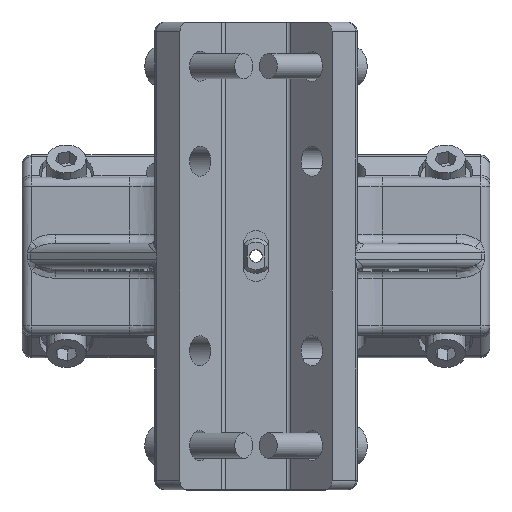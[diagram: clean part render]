
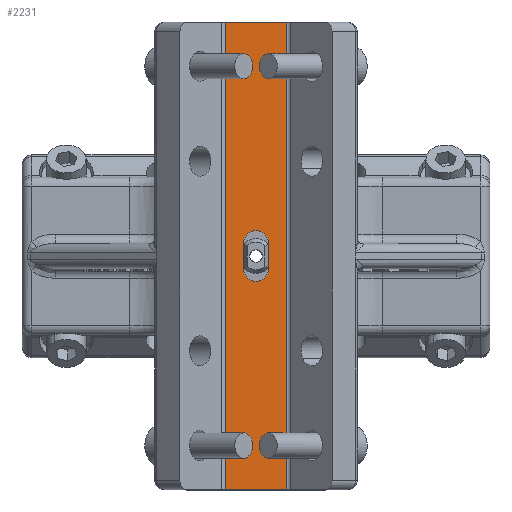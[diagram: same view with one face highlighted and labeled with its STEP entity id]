
A CAD part, top view. The second image highlights one B-rep face of the part: STEP entity #2231.
In plain terms, the highlighted planar face has unit normal (0, 0, 1).
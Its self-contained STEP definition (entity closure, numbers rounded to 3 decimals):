
#618=CARTESIAN_POINT('Vertex',(-9.734,74.,65.)) ;
#621=CARTESIAN_POINT('Line Origine',(0.,74.,65.)) ;
#625=CARTESIAN_POINT('Vertex',(9.734,74.,65.)) ;
#709=CARTESIAN_POINT('Line Origine',(9.734,0.,65.)) ;
#713=CARTESIAN_POINT('Vertex',(9.734,-74.,65.)) ;
#796=CARTESIAN_POINT('Line Origine',(0.,-74.,65.)) ;
#800=CARTESIAN_POINT('Vertex',(-9.734,-74.,65.)) ;
#2174=CARTESIAN_POINT('Line Origine',(-9.734,0.,65.)) ;
#2186=CARTESIAN_POINT('Axis2P3D Location',(9.734,0.,65.)) ;
#2197=CARTESIAN_POINT('Axis2P3D Location',(0.,-4.,65.)) ;
#2201=CARTESIAN_POINT('Vertex',(-4.,-4.,65.)) ;
#2203=CARTESIAN_POINT('Vertex',(4.,-4.,65.)) ;
#2206=CARTESIAN_POINT('Line Origine',(-4.,0.,65.)) ;
#2210=CARTESIAN_POINT('Vertex',(-4.,4.,65.)) ;
#2213=CARTESIAN_POINT('Axis2P3D Location',(0.,4.,65.)) ;
#2217=CARTESIAN_POINT('Vertex',(4.,4.,65.)) ;
#2220=CARTESIAN_POINT('Line Origine',(4.,0.,65.)) ;
#622=DIRECTION('Vector Direction',(-1.,0.,0.)) ;
#710=DIRECTION('Vector Direction',(0.,1.,0.)) ;
#797=DIRECTION('Vector Direction',(-1.,0.,0.)) ;
#2175=DIRECTION('Vector Direction',(0.,1.,0.)) ;
#2187=DIRECTION('Axis2P3D Direction',(0.,0.,-1.)) ;
#2188=DIRECTION('Axis2P3D XDirection',(-1.,0.,0.)) ;
#2198=DIRECTION('Axis2P3D Direction',(0.,0.,-1.)) ;
#2207=DIRECTION('Vector Direction',(0.,1.,0.)) ;
#2214=DIRECTION('Axis2P3D Direction',(0.,0.,-1.)) ;
#2221=DIRECTION('Vector Direction',(0.,-1.,0.)) ;
#2189=AXIS2_PLACEMENT_3D('Plane Axis2P3D',#2186,#2187,#2188) ;
#2199=AXIS2_PLACEMENT_3D('Circle Axis2P3D',#2197,#2198,$) ;
#2215=AXIS2_PLACEMENT_3D('Circle Axis2P3D',#2213,#2214,$) ;
#2192=ORIENTED_EDGE('',*,*,#2178,.F.) ;
#2193=ORIENTED_EDGE('',*,*,#802,.T.) ;
#2194=ORIENTED_EDGE('',*,*,#715,.T.) ;
#2195=ORIENTED_EDGE('',*,*,#627,.F.) ;
#2226=ORIENTED_EDGE('',*,*,#2205,.F.) ;
#2227=ORIENTED_EDGE('',*,*,#2212,.F.) ;
#2228=ORIENTED_EDGE('',*,*,#2219,.F.) ;
#2229=ORIENTED_EDGE('',*,*,#2224,.F.) ;
#2230=FACE_BOUND('',#2225,.T.) ;
#623=VECTOR('Line Direction',#622,1.) ;
#711=VECTOR('Line Direction',#710,1.) ;
#798=VECTOR('Line Direction',#797,1.) ;
#2176=VECTOR('Line Direction',#2175,1.) ;
#2208=VECTOR('Line Direction',#2207,1.) ;
#2222=VECTOR('Line Direction',#2221,1.) ;
#2231=ADVANCED_FACE('Kreuzverbindung SW50 zu SW50',(#2196,#2230),#2190,.F.) ;
#2200=CIRCLE('generated circle',#2199,4.) ;
#2216=CIRCLE('generated circle',#2215,4.) ;
#627=EDGE_CURVE('',#619,#626,#624,.F.) ;
#715=EDGE_CURVE('',#714,#626,#712,.T.) ;
#802=EDGE_CURVE('',#801,#714,#799,.F.) ;
#2178=EDGE_CURVE('',#801,#619,#2177,.T.) ;
#2205=EDGE_CURVE('',#2202,#2204,#2200,.F.) ;
#2212=EDGE_CURVE('',#2211,#2202,#2209,.F.) ;
#2219=EDGE_CURVE('',#2218,#2211,#2216,.F.) ;
#2224=EDGE_CURVE('',#2204,#2218,#2223,.F.) ;
#2191=EDGE_LOOP('',(#2192,#2193,#2194,#2195)) ;
#2225=EDGE_LOOP('',(#2226,#2227,#2228,#2229)) ;
#2196=FACE_OUTER_BOUND('',#2191,.T.) ;
#624=LINE('Line',#621,#623) ;
#712=LINE('Line',#709,#711) ;
#799=LINE('Line',#796,#798) ;
#2177=LINE('Line',#2174,#2176) ;
#2209=LINE('Line',#2206,#2208) ;
#2223=LINE('Line',#2220,#2222) ;
#2190=PLANE('',#2189) ;
#619=VERTEX_POINT('',#618) ;
#626=VERTEX_POINT('',#625) ;
#714=VERTEX_POINT('',#713) ;
#801=VERTEX_POINT('',#800) ;
#2202=VERTEX_POINT('',#2201) ;
#2204=VERTEX_POINT('',#2203) ;
#2211=VERTEX_POINT('',#2210) ;
#2218=VERTEX_POINT('',#2217) ;
